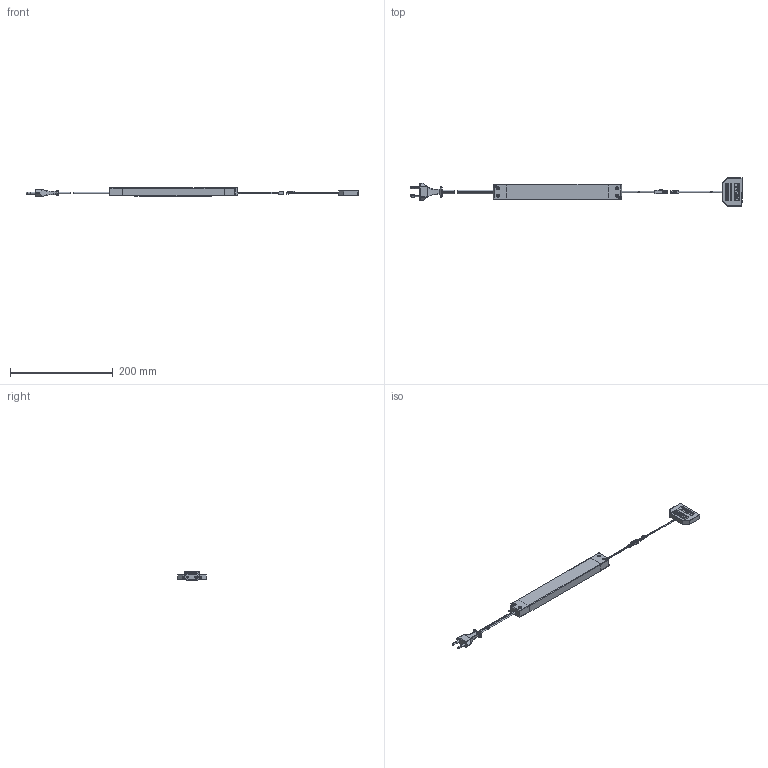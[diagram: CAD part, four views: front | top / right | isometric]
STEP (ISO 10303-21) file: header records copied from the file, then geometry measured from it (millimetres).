
FILE_DESCRIPTION (( 'STEP AP203' ), '1' );
FILE_NAME ('LED_EVG_12VDC_30W_24.STEP', '2024-11-27T11:06:09', ( '' ), ( '' ), 'SwSTEP 2.0', 'SolidWorks 2023', '' );
FILE_SCHEMA (( 'CONFIG_CONTROL_DESIGN' ));
Length unit declared in the file: millimetre
Products named in the file (8): LED_EVG_12VDC_30W_24; HAL30-12VF-2_; Klebeband_doppelseitig_20x1,2_L=150mm; Euroflachstecker_DAM_L=180mm; 6fach_Verteiler_DAM_LTG_100mm; .h_Aufkleber_FO_Prod.; LED_Stecker_Seiteneinspeisung; LED_Buchse_DAM_LTG_80mm_gebr.
Assembly tree (7 placements, depth 2):
  LED_EVG_12VDC_30W_24
    HAL30-12VF-2_
    Klebeband_doppelseitig_20x1,2_L=150mm
    Euroflachstecker_DAM_L=180mm
    LED_Buchse_DAM_LTG_80mm_gebr.
    LED_Stecker_Seiteneinspeisung
    6fach_Verteiler_DAM_LTG_100mm
    .h_Aufkleber_FO_Prod.
Bounding box: 647.5 x 55 x 17.21 mm (x, y, z)
Volume: 152693.3 mm3; surface area: 52837 mm2
Topology: 12 solids, 12 shells, 2103 faces, 5440 edges, 3429 vertices
Faces by surface type: plane 1112, bspline 528, cylinder 320, sphere 84, torus 59
Entity records: 82102 total; most frequent: CARTESIAN_POINT 34054, ORIENTED_EDGE 10692, DIRECTION 8016, EDGE_CURVE 5346, VECTOR 3492, LINE 3492, VERTEX_POINT 3420, EDGE_LOOP 2262
